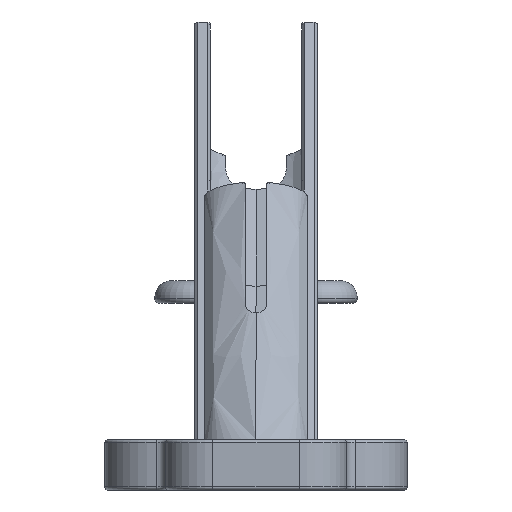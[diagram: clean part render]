
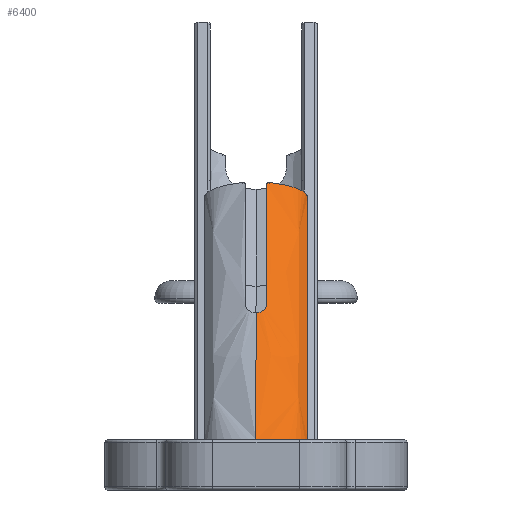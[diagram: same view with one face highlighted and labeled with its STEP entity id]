
A CAD part, front view. The second image highlights one B-rep face of the part: STEP entity #6400.
In plain terms, the highlighted free-form (B-spline) face has degree [3, 3] with [8, 4] control points.
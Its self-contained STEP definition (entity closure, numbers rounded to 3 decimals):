
#947=CARTESIAN_POINT('',(0.,224.845,3.6));
#948=CARTESIAN_POINT('',(1.258,224.912,3.6));
#949=CARTESIAN_POINT('',(3.665,225.244,3.6));
#950=CARTESIAN_POINT('',(6.976,226.171,3.6));
#951=CARTESIAN_POINT('',(9.954,227.487,3.6));
#952=CARTESIAN_POINT('',(12.49,229.115,3.6));
#953=CARTESIAN_POINT('',(14.56,231.03,3.6));
#954=CARTESIAN_POINT('',(16.136,233.16,3.6));
#955=CARTESIAN_POINT('',(16.819,234.574,3.6));
#956=CARTESIAN_POINT('',(17.095,235.283,3.6));
#1243=CARTESIAN_POINT('',(0.,248.883,
45.685));
#1244=CARTESIAN_POINT('',(0.,240.87,31.656));
#1245=CARTESIAN_POINT('',(0.,232.857,
17.628));
#1246=CARTESIAN_POINT('',(0.,224.845,3.6));
#1248=CARTESIAN_POINT('',(3.5,273.451,87.922));
#1249=CARTESIAN_POINT('',(3.5,265.952,74.792));
#1250=CARTESIAN_POINT('',(3.5,258.453,61.662));
#1251=CARTESIAN_POINT('',(3.5,250.954,48.532));
#1253=CARTESIAN_POINT('',(4.5,274.112,88.696));
#1254=CARTESIAN_POINT('',(4.396,274.093,88.707));
#1255=CARTESIAN_POINT('',(4.187,274.04,88.7));
#1256=CARTESIAN_POINT('',(3.897,273.918,88.598));
#1257=CARTESIAN_POINT('',(3.679,273.775,88.427));
#1258=CARTESIAN_POINT('',(3.531,273.609,88.189));
#1259=CARTESIAN_POINT('',(3.5,273.502,88.012));
#1260=CARTESIAN_POINT('',(3.5,273.451,87.922));
#1762=CARTESIAN_POINT('',(17.095,235.283,3.6));
#1763=CARTESIAN_POINT('',(17.123,250.685,30.561));
#1764=CARTESIAN_POINT('',(17.15,266.086,57.522));
#1765=CARTESIAN_POINT('',(17.178,281.487,84.483));
#1793=CARTESIAN_POINT('',(17.178,281.487,84.483));
#1794=CARTESIAN_POINT('',(16.985,281.112,84.698));
#1795=CARTESIAN_POINT('',(16.535,280.372,85.121));
#1796=CARTESIAN_POINT('',(15.664,279.303,85.731));
#1797=CARTESIAN_POINT('',(14.564,278.267,86.323));
#1798=CARTESIAN_POINT('',(13.207,277.268,86.893));
#1799=CARTESIAN_POINT('',(11.555,276.327,87.431));
#1800=CARTESIAN_POINT('',(9.599,275.469,87.921));
#1801=CARTESIAN_POINT('',(7.233,274.691,88.365));
#1802=CARTESIAN_POINT('',(5.45,274.284,88.598));
#1803=CARTESIAN_POINT('',(4.5,274.112,88.696));
#3129=CARTESIAN_POINT('',(3.5,250.954,48.532));
#3130=CARTESIAN_POINT('',(3.5,250.826,48.309));
#3131=CARTESIAN_POINT('',(3.443,250.561,47.864));
#3132=CARTESIAN_POINT('',(3.18,250.146,47.227));
#3133=CARTESIAN_POINT('',(2.752,249.754,46.675));
#3134=CARTESIAN_POINT('',(2.212,249.421,46.242));
#3135=CARTESIAN_POINT('',(1.538,249.139,45.908));
#3136=CARTESIAN_POINT('',(0.778,248.949,45.712));
#3137=CARTESIAN_POINT('',(0.258,248.893,45.679));
#3138=CARTESIAN_POINT('',(0.,248.883,
45.685));
#4240=CARTESIAN_POINT('',(3.5,250.954,48.532));
#4242=VERTEX_POINT('',#4240);
#4244=VERTEX_POINT('',#1253);
#4245=VERTEX_POINT('',#1260);
#4312=VERTEX_POINT('',#3138);
#4326=CARTESIAN_POINT('',(17.178,281.487,84.483));
#4327=VERTEX_POINT('',#4326);
#4633=VERTEX_POINT('',#947);
#4634=VERTEX_POINT('',#956);
#6352=CARTESIAN_POINT('',(-0.203,223.862,
1.897));
#6353=CARTESIAN_POINT('',(-0.203,240.606,
31.212));
#6354=CARTESIAN_POINT('',(-0.203,257.35,
60.526));
#6355=CARTESIAN_POINT('',(-0.204,274.094,
89.841));
#6356=CARTESIAN_POINT('',(1.453,223.918,1.865));
#6357=CARTESIAN_POINT('',(1.454,240.662,31.18));
#6358=CARTESIAN_POINT('',(1.455,257.406,60.494));
#6359=CARTESIAN_POINT('',(1.455,274.15,89.809));
#6360=CARTESIAN_POINT('',(4.864,224.297,1.648));
#6361=CARTESIAN_POINT('',(4.868,241.04,30.964));
#6362=CARTESIAN_POINT('',(4.873,257.783,60.279));
#6363=CARTESIAN_POINT('',(4.878,274.526,89.595));
#6364=CARTESIAN_POINT('',(9.976,225.736,0.825));
#6365=CARTESIAN_POINT('',(9.99,242.477,30.142));
#6366=CARTESIAN_POINT('',(10.003,259.217,59.459));
#6367=CARTESIAN_POINT('',(10.017,275.957,88.776));
#6368=CARTESIAN_POINT('',(13.749,227.768,
-0.336));
#6369=CARTESIAN_POINT('',(13.77,244.507,28.981));
#6370=CARTESIAN_POINT('',(13.791,261.246,58.299));
#6371=CARTESIAN_POINT('',(13.813,277.985,87.617));
#6372=CARTESIAN_POINT('',(16.046,230.01,-1.617));
#6373=CARTESIAN_POINT('',(16.073,246.75,27.7));
#6374=CARTESIAN_POINT('',(16.1,263.491,57.016));
#6375=CARTESIAN_POINT('',(16.126,280.232,86.333));
#6376=CARTESIAN_POINT('',(16.874,231.294,-2.351));
#6377=CARTESIAN_POINT('',(16.902,248.036,26.965));
#6378=CARTESIAN_POINT('',(16.93,264.779,56.281));
#6379=CARTESIAN_POINT('',(16.959,281.521,85.597));
#6380=CARTESIAN_POINT('',(17.173,231.906,-2.701));
#6381=CARTESIAN_POINT('',(17.202,248.649,26.615));
#6382=CARTESIAN_POINT('',(17.231,265.393,55.93));
#6383=CARTESIAN_POINT('',(17.26,282.136,85.245));
#6384=B_SPLINE_SURFACE_WITH_KNOTS('',3,3,((#6352,#6353,#6354,#6355),(#6356,
#6357,#6358,#6359),(#6360,#6361,#6362,#6363),(#6364,#6365,#6366,#6367),(#6368,
#6369,#6370,#6371),(#6372,#6373,#6374,#6375),(#6376,#6377,#6378,#6379),(#6380,
#6381,#6382,#6383)),.UNSPECIFIED.,.F.,.F.,.F.,(4,1,1,1,1,4),(4,4),(
-0.019,0.25,0.5,0.75,0.875,0.976),(
-0.22,0.219),.UNSPECIFIED.);
#6385=ORIENTED_EDGE('',*,*,#6307,.F.);
#6387=ORIENTED_EDGE('',*,*,#6386,.F.);
#6389=ORIENTED_EDGE('',*,*,#6388,.F.);
#6391=ORIENTED_EDGE('',*,*,#6390,.F.);
#6393=ORIENTED_EDGE('',*,*,#6392,.F.);
#6395=ORIENTED_EDGE('',*,*,#6394,.F.);
#6397=ORIENTED_EDGE('',*,*,#6396,.F.);
#6398=EDGE_LOOP('',(#6385,#6387,#6389,#6391,#6393,#6395,#6397));
#6399=FACE_OUTER_BOUND('',#6398,.F.);
#957=B_SPLINE_CURVE_WITH_KNOTS('',3,(#947,#948,#949,#950,#951,#952,#953,#954,
#955,#956),.UNSPECIFIED.,.F.,.F.,(4,1,1,1,1,1,1,4),(0.,0.143,
0.286,0.429,0.571,0.714,
0.857,1.),.UNSPECIFIED.);
#1247=B_SPLINE_CURVE_WITH_KNOTS('',3,(#1243,#1244,#1245,#1246),.UNSPECIFIED.,
.F.,.F.,(4,4),(0.,1.),.UNSPECIFIED.);
#1252=B_SPLINE_CURVE_WITH_KNOTS('',3,(#1248,#1249,#1250,#1251),.UNSPECIFIED.,
.F.,.F.,(4,4),(0.,1.),.UNSPECIFIED.);
#1261=B_SPLINE_CURVE_WITH_KNOTS('',3,(#1253,#1254,#1255,#1256,#1257,#1258,#1259,
#1260),.UNSPECIFIED.,.F.,.F.,(4,1,1,1,1,4),(0.,0.2,0.4,0.6,0.8,1.),
.UNSPECIFIED.);
#1766=B_SPLINE_CURVE_WITH_KNOTS('',3,(#1762,#1763,#1764,#1765),.UNSPECIFIED.,
.F.,.F.,(4,4),(0.,1.),.UNSPECIFIED.);
#1804=B_SPLINE_CURVE_WITH_KNOTS('',3,(#1793,#1794,#1795,#1796,#1797,#1798,#1799,
#1800,#1801,#1802,#1803),.UNSPECIFIED.,.F.,.F.,(4,1,1,1,1,1,1,1,4),(0.,
0.125,0.25,0.375,0.5,0.625,0.75,0.875,1.),.UNSPECIFIED.);
#3139=B_SPLINE_CURVE_WITH_KNOTS('',3,(#3129,#3130,#3131,#3132,#3133,#3134,#3135,
#3136,#3137,#3138),.UNSPECIFIED.,.F.,.F.,(4,1,1,1,1,1,1,4),(0.,
0.143,0.286,0.429,0.571,
0.714,0.857,1.),.UNSPECIFIED.);
#6307=EDGE_CURVE('',#4633,#4634,#957,.T.);
#6386=EDGE_CURVE('',#4312,#4633,#1247,.T.);
#6388=EDGE_CURVE('',#4242,#4312,#3139,.T.);
#6390=EDGE_CURVE('',#4245,#4242,#1252,.T.);
#6392=EDGE_CURVE('',#4244,#4245,#1261,.T.);
#6394=EDGE_CURVE('',#4327,#4244,#1804,.T.);
#6396=EDGE_CURVE('',#4634,#4327,#1766,.T.);
#6400=ADVANCED_FACE('',(#6399),#6384,.T.);
